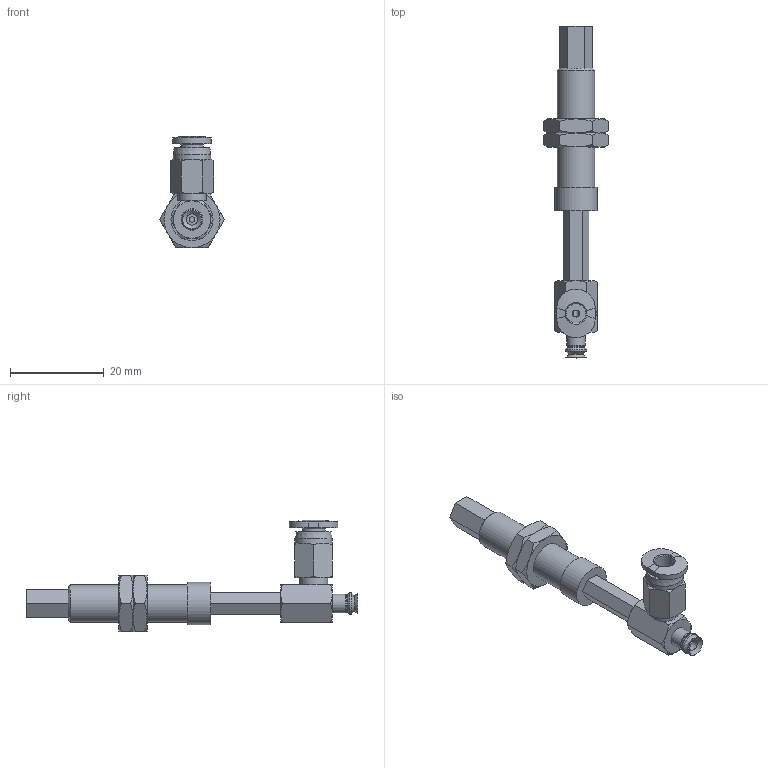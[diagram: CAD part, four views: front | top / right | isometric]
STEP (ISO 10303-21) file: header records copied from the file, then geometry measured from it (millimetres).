
FILE_DESCRIPTION(('STEP AP203'),'1');
FILE_NAME('-O.stp','2025-04-24T05:24:07',(' '),(' '),'Spatial InterOp 3D',' ',' ');
FILE_SCHEMA(('CONFIG_CONTROL_DESIGN'));
Length unit declared in the file: millimetre
Products named in the file (7): BNABPJYH-4-15-※-O; CONNECTOR-H-2A-15; Nut-2A-15-h; NAPFTH-2A-15-FBODY; NAPFTH-2A-15-MBODY; BPJG-4-※; PC-C_04-M3
Assembly tree (7 placements, depth 2):
  BNABPJYH-4-15-※-O
    CONNECTOR-H-2A-15
    Nut-2A-15-h  x2
    NAPFTH-2A-15-FBODY
    NAPFTH-2A-15-MBODY
    BPJG-4-※
    PC-C_04-M3
Bounding box: 13.86 x 71 x 23.77 mm (x, y, z)
Volume: 3233.3 mm3; surface area: 4666.1 mm2
Topology: 6 solids, 8 shells, 191 faces, 409 edges, 248 vertices
Faces by surface type: plane 80, cone 70, cylinder 23, torus 11, bspline 4, revolution 3
Full cylindrical faces by diameter (mm): 1.2 x1, 2 x2, 2.4 x1, 2.459 x2, 2.5 x2, 3 x4, 4 x1, 4.9 x1, 6 x1, 6.1 x1, 7.188 x2, 8 x2, 9 x1
Entity records: 4942 total; most frequent: CARTESIAN_POINT 1324, DIRECTION 671, ORIENTED_EDGE 596, EDGE_CURVE 299, AXIS2_PLACEMENT_3D 282, EDGE_LOOP 244, VERTEX_POINT 209, FACE_OUTER_BOUND 139
